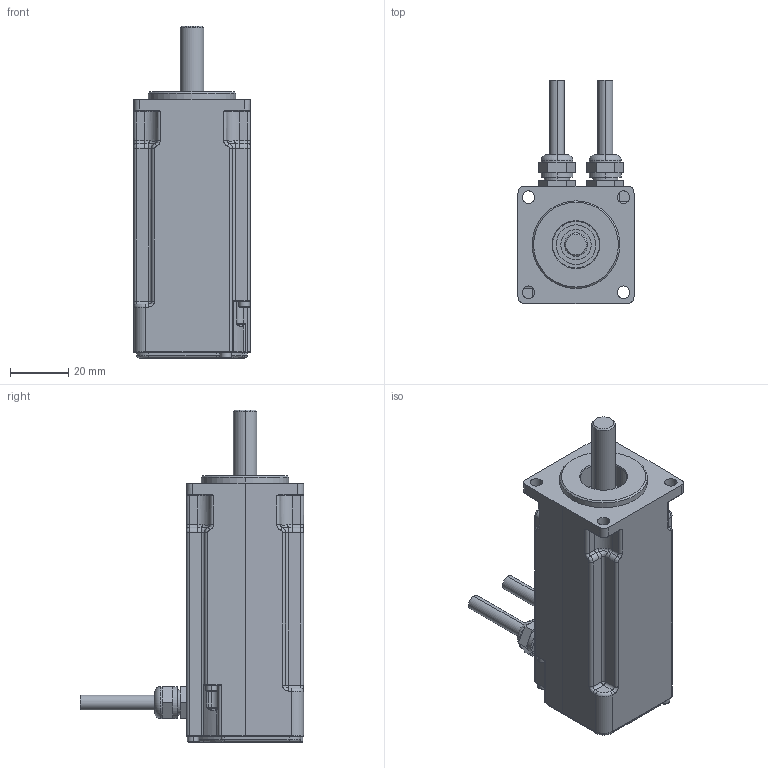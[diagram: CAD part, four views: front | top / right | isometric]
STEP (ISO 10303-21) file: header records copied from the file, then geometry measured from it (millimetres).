
FILE_DESCRIPTION (( 'STEP AP214' ), '1' );
FILE_NAME ('MR7712-Ux-Nxx-G01-AK2-M0-P0.stp', '2009-04-08T13:46:00', ( 'SysAdmin' ), ( 'SolidWorks' ), 'SwSTEP 2.0', 'SolidWorks 2009', '' );
FILE_SCHEMA (( 'AUTOMOTIVE_DESIGN' ));
Length unit declared in the file: millimetre
Products named in the file (1): MR7712-Ux-Nxx-G01-AK2-M0-P0
Bounding box: 40 x 76.33 x 113.6 mm (x, y, z)
Volume: 132053.3 mm3; surface area: 20165.9 mm2
Topology: 1 solids, 1 shells, 446 faces, 1022 edges, 579 vertices
Faces by surface type: cylinder 160, plane 115, bspline 84, torus 59, cone 26, sphere 2
Entity records: 18662 total; most frequent: CARTESIAN_POINT 4556, ORIENTED_EDGE 2012, DIRECTION 1984, EDGE_CURVE 1006, AXIS2_PLACEMENT_3D 789, VERTEX_POINT 579, EDGE_LOOP 471, FACE_OUTER_BOUND 446
